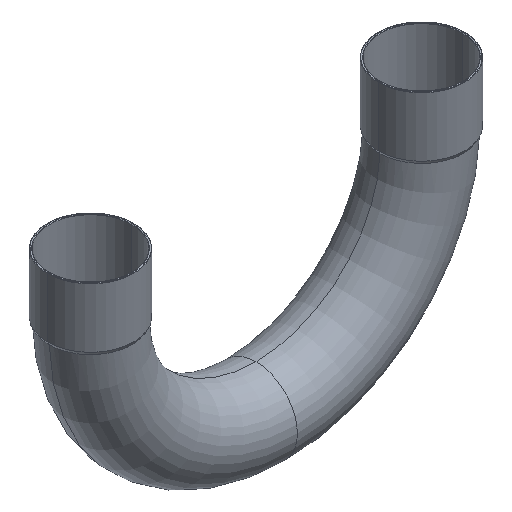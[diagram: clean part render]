
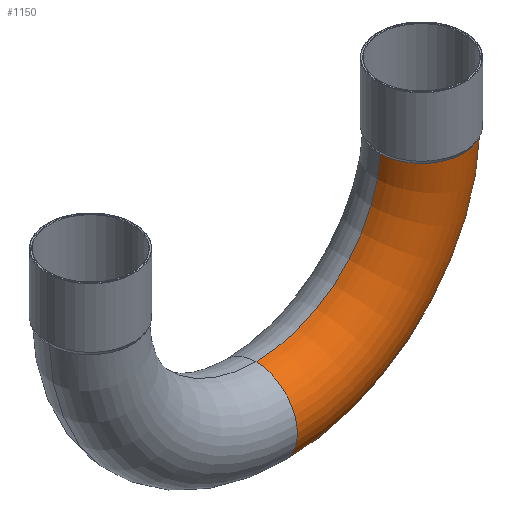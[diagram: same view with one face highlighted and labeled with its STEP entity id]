
A CAD part, isometric view. The second image highlights one B-rep face of the part: STEP entity #1150.
In plain terms, the highlighted toroidal (fillet/blend) face has major radius 84 mm and minor radius 21 mm.
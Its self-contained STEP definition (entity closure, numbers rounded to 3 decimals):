
#51=CARTESIAN_POINT('',(22.035,0.,-105.0));
#52=VERTEX_POINT('',#51);
#85=CARTESIAN_POINT('',(22.035,0.,-63.0));
#86=VERTEX_POINT('',#85);
#109=CARTESIAN_POINT('',(126.99,0.,-3.078));
#110=VERTEX_POINT('',#109);
#111=CARTESIAN_POINT('',(22.035,0.,0.0));
#112=DIRECTION('',(0.0,-1.0,0.0));
#113=DIRECTION('',(0.0,0.0,-1.0));
#114=AXIS2_PLACEMENT_3D('',#111,#112,#113);
#115=CIRCLE('',#114,105.0);
#116=EDGE_CURVE('',#52,#110,#115,.T.);
#119=CARTESIAN_POINT('',(84.969,0.,-2.885));
#120=VERTEX_POINT('',#119);
#121=CARTESIAN_POINT('',(22.035,0.,0.0));
#122=DIRECTION('',(0.0,1.0,0.0));
#123=DIRECTION('',(0.0,0.0,-1.0));
#124=AXIS2_PLACEMENT_3D('',#121,#122,#123);
#125=CIRCLE('',#124,63.0);
#126=EDGE_CURVE('',#120,#86,#125,.T.);
#1111=CARTESIAN_POINT('',(22.035,0.,0.0));
#1112=DIRECTION('',(0.0,-1.0,0.0));
#1113=DIRECTION('',(0.0,0.0,-1.0));
#1114=AXIS2_PLACEMENT_3D('',#1111,#1112,#1113);
#1115=TOROIDAL_SURFACE('',#1114,84.0,21.0);
#1116=ORIENTED_EDGE('',*,*,#116,.T.);
#1117=CARTESIAN_POINT('',(126.99,0.,-3.078));
#1118=CARTESIAN_POINT('',(126.99,-1.548,-3.078));
#1119=CARTESIAN_POINT('',(126.819,-3.091,-3.078));
#1120=CARTESIAN_POINT('',(126.14,-6.112,-3.075));
#1121=CARTESIAN_POINT('',(125.635,-7.58,-3.074));
#1122=CARTESIAN_POINT('',(123.803,-11.451,-3.068));
#1123=CARTESIAN_POINT('',(122.162,-13.671,-3.063));
#1124=CARTESIAN_POINT('',(118.119,-17.357,-3.048));
#1125=CARTESIAN_POINT('',(115.757,-18.788,-3.04));
#1126=CARTESIAN_POINT('',(110.615,-20.665,-3.02));
#1127=CARTESIAN_POINT('',(107.885,-21.092,-3.008));
#1128=CARTESIAN_POINT('',(102.415,-20.875,-2.984));
#1129=CARTESIAN_POINT('',(99.728,-20.234,-2.971));
#1130=CARTESIAN_POINT('',(94.751,-17.958,-2.945));
#1131=CARTESIAN_POINT('',(92.509,-16.345,-2.932));
#1132=CARTESIAN_POINT('',(88.77,-12.353,-2.91));
#1133=CARTESIAN_POINT('',(87.309,-10.011,-2.901));
#1134=CARTESIAN_POINT('',(85.432,-5.073,-2.889));
#1135=CARTESIAN_POINT('',(84.969,-2.546,-2.885));
#1136=CARTESIAN_POINT('',(84.969,0.,-2.885));
#1137=B_SPLINE_CURVE_WITH_KNOTS('',3,(#1117,#1118,#1119,#1120,#1121,#1122,#1123,#1124,#1125,#1126,#1127,#1128,#1129,#1130,#1131,#1132,#1133,#1134,#1135,#1136),.UNSPECIFIED.,.F.,.U.,(4,2,2,2,2,2,2,2,2,4),(-13.237,-12.773,-12.309,-11.488,-10.667,-9.846,-9.025,-8.205,-7.384,-6.62),.UNSPECIFIED.);
#1138=EDGE_CURVE('',#110,#120,#1137,.T.);
#1139=ORIENTED_EDGE('',*,*,#1138,.T.);
#1140=ORIENTED_EDGE('',*,*,#126,.T.);
#1141=CARTESIAN_POINT('',(22.035,0.,-84.0));
#1142=DIRECTION('',(-1.0,0.0,0.0));
#1143=DIRECTION('',(0.0,0.0,-1.0));
#1144=AXIS2_PLACEMENT_3D('',#1141,#1142,#1143);
#1145=CIRCLE('',#1144,21.0);
#1146=EDGE_CURVE('',#52,#86,#1145,.T.);
#1147=ORIENTED_EDGE('',*,*,#1146,.F.);
#1148=EDGE_LOOP('',(#1116,#1139,#1140,#1147));
#1149=FACE_OUTER_BOUND('',#1148,.T.);
#1150=ADVANCED_FACE('',(#1149),#1115,.T.);
